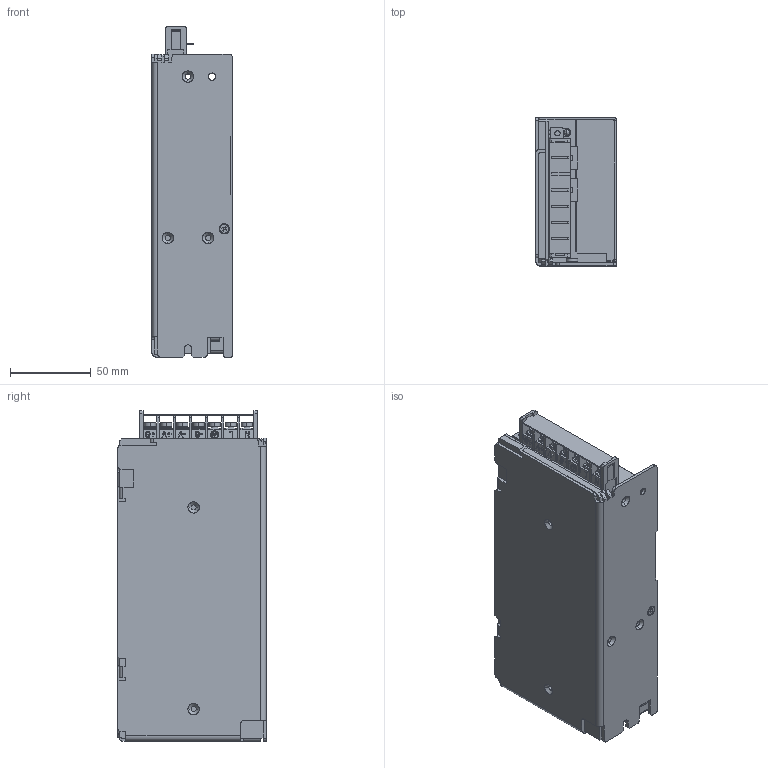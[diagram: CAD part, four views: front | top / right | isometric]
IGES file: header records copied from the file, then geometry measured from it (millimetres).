
Start section: SolidWorks IGES file using analytic representation for surfaces
Global section: file name: C:\JWS70P-OUTLINE.IGS; native system: SolidWorks 2006 by SolidWorks Corporation; preprocessor: SolidWorks 2006 by SolidWorks Corporation; author: 3444matsunaga; date: 061011.135627; units: millimetre
Bounding box: 50 x 92 x 205 mm (x, y, z)
Surface area: 75396.1 mm2 (no closed solid volume)
Topology: 0 solids, 0 shells, 1059 faces, 10871 edges, 10869 vertices
Faces by surface type: bspline 811, revolution 248
